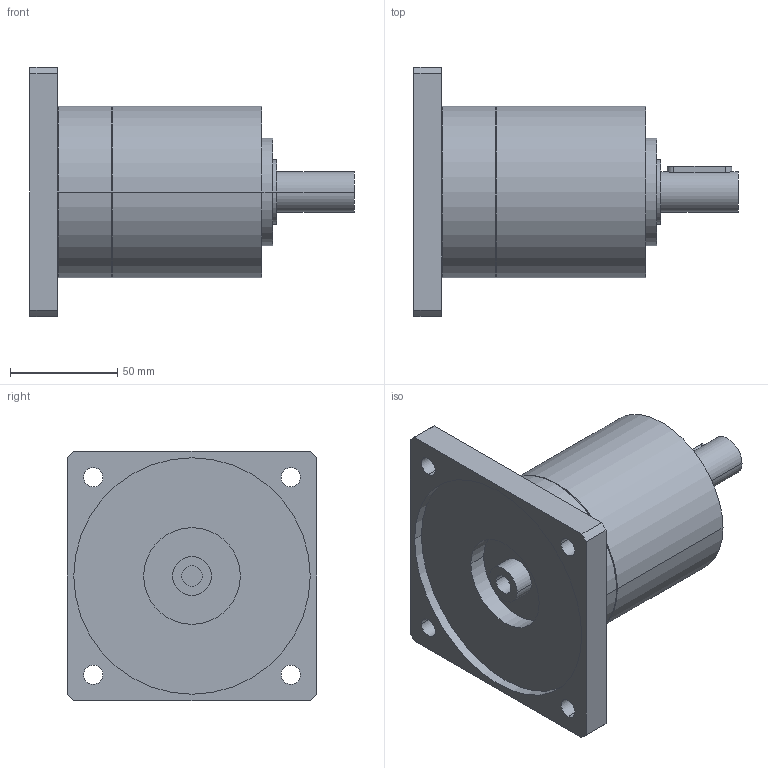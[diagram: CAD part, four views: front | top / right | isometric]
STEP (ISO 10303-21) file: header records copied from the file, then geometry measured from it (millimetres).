
FILE_DESCRIPTION(('CoCreate Modeling STEP Export'),'2;1');
FILE_NAME('GPR100_ig-3-4-5-6_19_B14_9.52_P08.stp','2014-08-26T10:09:38',(''),(''),'CoCreate Modeling STEP processor for AP214 (Solid Model)','CoCreate Modeling 16.00C 25-Feb-2009 (C) Parametric Technology GmbH','');
FILE_SCHEMA(('AUTOMOTIVE_DESIGN { 1 0 10303 214 1 1 1 1 }'));
Length unit declared in the file: millimetre
Products named in the file (2): GPR100_ig-3-4-5-6_19_B14_9.52_P08
Assembly tree (1 placements, depth 2):
  GPR100_ig-3-4-5-6_19_B14_9.52_P08
    GPR100_ig-3-4-5-6_19_B14_9.52_P08
Bounding box: 151 x 116 x 116 mm (x, y, z)
Volume: 612652.1 mm3; surface area: 66900.1 mm2
Topology: 1 solids, 1 shells, 70 faces, 187 edges, 131 vertices
Faces by surface type: cylinder 42, plane 22, cone 6
Entity records: 1934 total; most frequent: ORIENTED_EDGE 370, CARTESIAN_POINT 359, DIRECTION 262, EDGE_CURVE 185, VERTEX_POINT 131, AXIS2_PLACEMENT_3D 98, EDGE_LOOP 92, FACE_OUTER_BOUND 70
